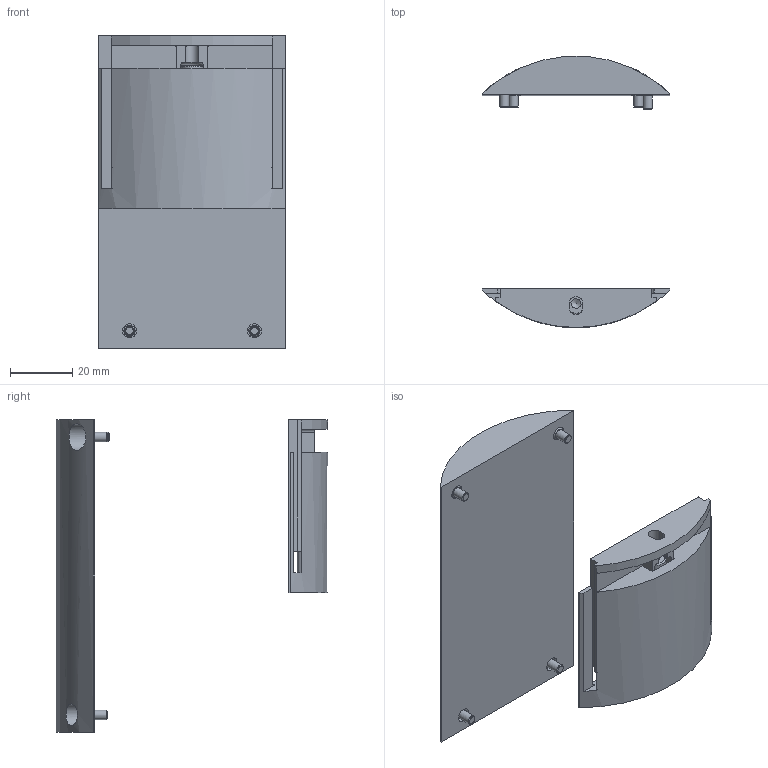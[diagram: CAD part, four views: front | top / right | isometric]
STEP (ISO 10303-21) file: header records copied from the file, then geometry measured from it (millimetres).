
FILE_DESCRIPTION(/* description */ ('Tělo krytu'),/* implementation_level */ '2;1');
FILE_NAME(/* name */ 'SUB-CH87-CMK-M00.stp',/* time_stamp */ '2026-04-14T14:51:14+02:00',/* author */ ('roman'),/* organization */ (''),/* preprocessor_version */ 'ST-DEVELOPER v20',/* originating_system */ 'Autodesk Inventor 2024',/* authorisation */ '');
FILE_SCHEMA (('AUTOMOTIVE_DESIGN { 1 0 10303 214 3 1 1 }'));
Length unit declared in the file: millimetre
Products named in the file (7): SUB-CH87-CMK-M00; CH87-CMK-FXP; CH87-CMK-APT; CH87-CMK-APH; DIN 912 - M4 x 40; ISO 7380-1 - M3 x 6; DIN 7991 - M3x6
Assembly tree (8 placements, depth 2):
  SUB-CH87-CMK-M00
    CH87-CMK-FXP
    CH87-CMK-APT
    CH87-CMK-APH
    DIN 912 - M4 x 40
    ISO 7380-1 - M3 x 6  x2
    DIN 7991 - M3x6  x2
Bounding box: 60.03 x 86.84 x 100 mm (x, y, z)
Volume: 76326.9 mm3; surface area: 28759.8 mm2
Topology: 8 solids, 8 shells, 162 faces, 413 edges, 272 vertices
Faces by surface type: plane 100, cylinder 40, cone 12, torus 8, bspline 2
Full cylindrical faces by diameter (mm): 3 x4, 3.242 x1, 4 x1, 4.5 x4, 5.7 x2, 6 x2, 7 x3, 8.5 x2
Entity records: 4514 total; most frequent: CARTESIAN_POINT 920, DIRECTION 717, ORIENTED_EDGE 686, EDGE_CURVE 343, AXIS2_PLACEMENT_3D 249, VERTEX_POINT 227, LINE 219, VECTOR 219
